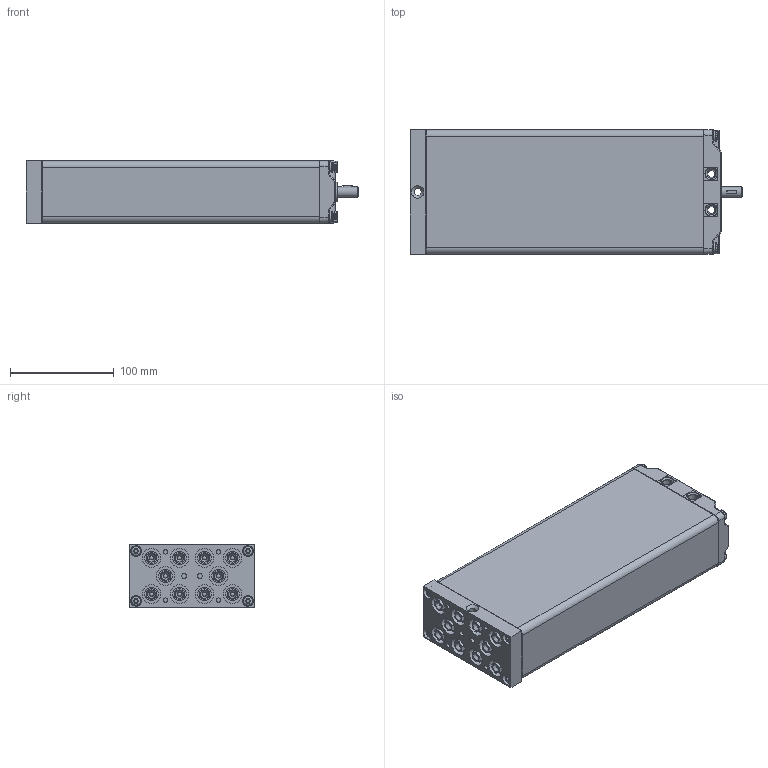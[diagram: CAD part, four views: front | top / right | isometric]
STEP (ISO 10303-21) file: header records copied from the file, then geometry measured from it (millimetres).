
FILE_DESCRIPTION(/* description */ ('Unknown'),/* implementation_level */ '2;1');
FILE_NAME(/* name */ '102.00281 Pumpe PB 0815 W',/* time_stamp */ '2016-11-03T10:15:57+01:00',/* author */ ('Unknown'),/* organization */ ('Unknown'),/* preprocessor_version */ 'ST-DEVELOPER v16.7',/* originating_system */ 'DEX',/* authorisation */ $);
FILE_SCHEMA (('AUTOMOTIVE_DESIGN {1 0 10303 214 3 1 1}'));
Products named in the file (16): 102.00281; 115.10031; 125.00061; 115.00008; 142.00021; 125.00021; 142.00013; 125.00141; 115.00140; 126.00006; 122.00040; 119.00041; 126.00036; 142.00057; 142.00083; 142.00017
Assembly tree (35 placements, depth 3):
  102.00281
    115.10031  x10
      125.00061
      115.00008
      142.00021
      125.00021
    142.00013  x8
    125.00141
    115.00140
      126.00006
      122.00040
    119.00041
    126.00036
    142.00057
    142.00083  x4
    142.00017  x2
Bounding box: 320.5 x 120 x 60.3 mm (x, y, z)
Volume: 481551.5 mm3; surface area: 306602.6 mm2
Topology: 50 solids, 50 shells, 2260 faces, 5125 edges, 3008 vertices
Faces by surface type: plane 811, cylinder 515, cone 381, bspline 377, torus 116, sphere 60
Full cylindrical faces by diameter (mm): 3.5 x10, 4.1 x10, 4.134 x4, 4.2 x10, 4.917 x2, 5 x12, 5.8 x4, 6 x2, 6.8 x1, 6.917 x20, 8 x21, 8.5 x4, 9.8 x8, 10 x5, 10.4 x1, 10.5 x4, 12.5 x10, 13 x30, 14 x1, 14.4 x10, 17.9 x20, 18 x11, 19 x1
Entity records: 60469 total; most frequent: CARTESIAN_POINT 28885, ORIENTED_EDGE 5080, DIRECTION 4447, EDGE_CURVE 2540, AXIS2_PLACEMENT_3D 1727, VERTEX_POINT 1605, FACE_BOUND 1417, EDGE_LOOP 1416
